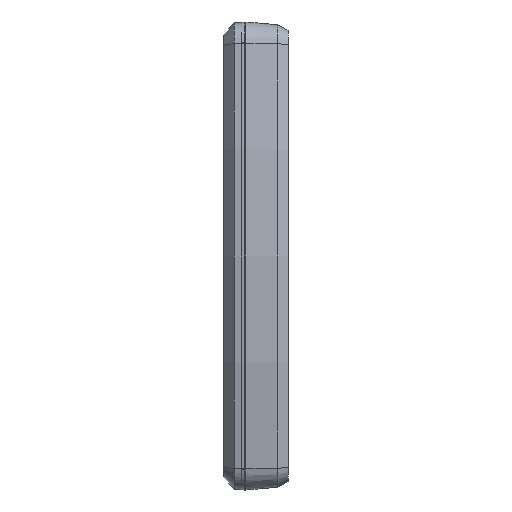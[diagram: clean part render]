
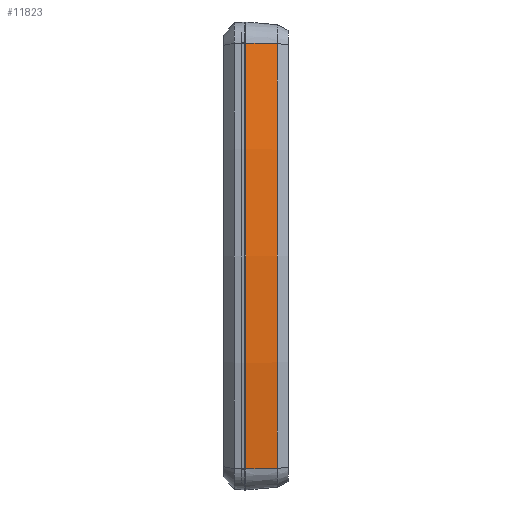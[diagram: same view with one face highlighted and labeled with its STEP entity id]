
A CAD part, left-side view. The second image highlights one B-rep face of the part: STEP entity #11823.
In plain terms, the highlighted conical face has half-angle 5 degrees and reference radius 677.8 mm.
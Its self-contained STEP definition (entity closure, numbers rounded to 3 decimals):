
#90 = VERTEX_POINT ( 'NONE', #17851 ) ;
#1676 = CONICAL_SURFACE ( 'NONE', #12590, 677.8, 0.087 ) ;
#1759 = DIRECTION ( 'NONE',  ( 0., 0., 1. ) ) ;
#2190 = CARTESIAN_POINT ( 'NONE',  ( -152.748, 0., 105.445 ) ) ;
#2719 = CARTESIAN_POINT ( 'NONE',  ( -152.748, 0., -105.445 ) ) ;
#3476 = AXIS2_PLACEMENT_3D ( 'NONE', #14628, #6369, #16032 ) ;
#3499 = ORIENTED_EDGE ( 'NONE', *, *, #8822, .F. ) ;
#4202 = DIRECTION ( 'NONE',  ( 0., 1., 0. ) ) ;
#4894 = VECTOR ( 'NONE', #11842, 1000. ) ;
#4937 = CIRCLE ( 'NONE', #13273, 677.8 ) ;
#5081 = VERTEX_POINT ( 'NONE', #7262 ) ;
#5343 = VECTOR ( 'NONE', #12899, 1000. ) ;
#5776 = LINE ( 'NONE', #11509, #5343 ) ;
#5928 = DIRECTION ( 'NONE',  ( 0., 1., 0. ) ) ;
#6369 = DIRECTION ( 'NONE',  ( 0., 1., 0. ) ) ;
#7262 = CARTESIAN_POINT ( 'NONE',  ( -151.406, -15.521, 105.233 ) ) ;
#7265 = CARTESIAN_POINT ( 'NONE',  ( 516.8, 0., 0. ) ) ;
#8594 = EDGE_LOOP ( 'NONE', ( #10368, #14385, #14794, #3499 ) ) ;
#8822 = EDGE_CURVE ( 'NONE', #15714, #10705, #4937, .T. ) ;
#10368 = ORIENTED_EDGE ( 'NONE', *, *, #10791, .F. ) ;
#10705 = VERTEX_POINT ( 'NONE', #11391 ) ;
#10791 = EDGE_CURVE ( 'NONE', #90, #15714, #5776, .T. ) ;
#10940 = CIRCLE ( 'NONE', #3476, 676.442 ) ;
#11391 = CARTESIAN_POINT ( 'NONE',  ( -152.748, 0., 105.445 ) ) ;
#11509 = CARTESIAN_POINT ( 'NONE',  ( -152.748, 0., -105.445 ) ) ;
#11823 = ADVANCED_FACE ( 'NONE', ( #13127 ), #1676, .T. ) ;
#11842 = DIRECTION ( 'NONE',  ( -0.086, 0.996, 0.014 ) ) ;
#11912 = EDGE_CURVE ( 'NONE', #5081, #10705, #12680, .T. ) ;
#12473 = CARTESIAN_POINT ( 'NONE',  ( 516.8, 0., 0. ) ) ;
#12590 = AXIS2_PLACEMENT_3D ( 'NONE', #7265, #5928, #1759 ) ;
#12680 = LINE ( 'NONE', #2190, #4894 ) ;
#12899 = DIRECTION ( 'NONE',  ( -0.086, 0.996, -0.014 ) ) ;
#13127 = FACE_OUTER_BOUND ( 'NONE', #8594, .T. ) ;
#13273 = AXIS2_PLACEMENT_3D ( 'NONE', #12473, #4202, #13863 ) ;
#13315 = EDGE_CURVE ( 'NONE', #90, #5081, #10940, .T. ) ;
#13863 = DIRECTION ( 'NONE',  ( 0., 0., 1. ) ) ;
#14385 = ORIENTED_EDGE ( 'NONE', *, *, #13315, .T. ) ;
#14628 = CARTESIAN_POINT ( 'NONE',  ( 516.8, -15.521, 0. ) ) ;
#14794 = ORIENTED_EDGE ( 'NONE', *, *, #11912, .T. ) ;
#15714 = VERTEX_POINT ( 'NONE', #2719 ) ;
#16032 = DIRECTION ( 'NONE',  ( 0., 0., -1. ) ) ;
#17851 = CARTESIAN_POINT ( 'NONE',  ( -151.406, -15.521, -105.233 ) ) ;
